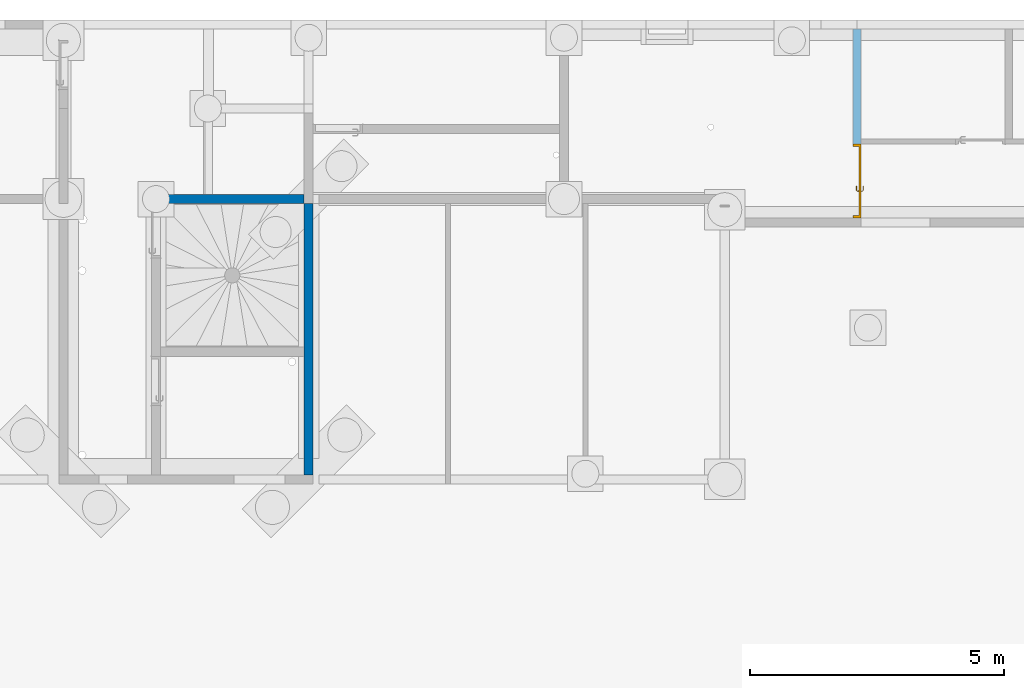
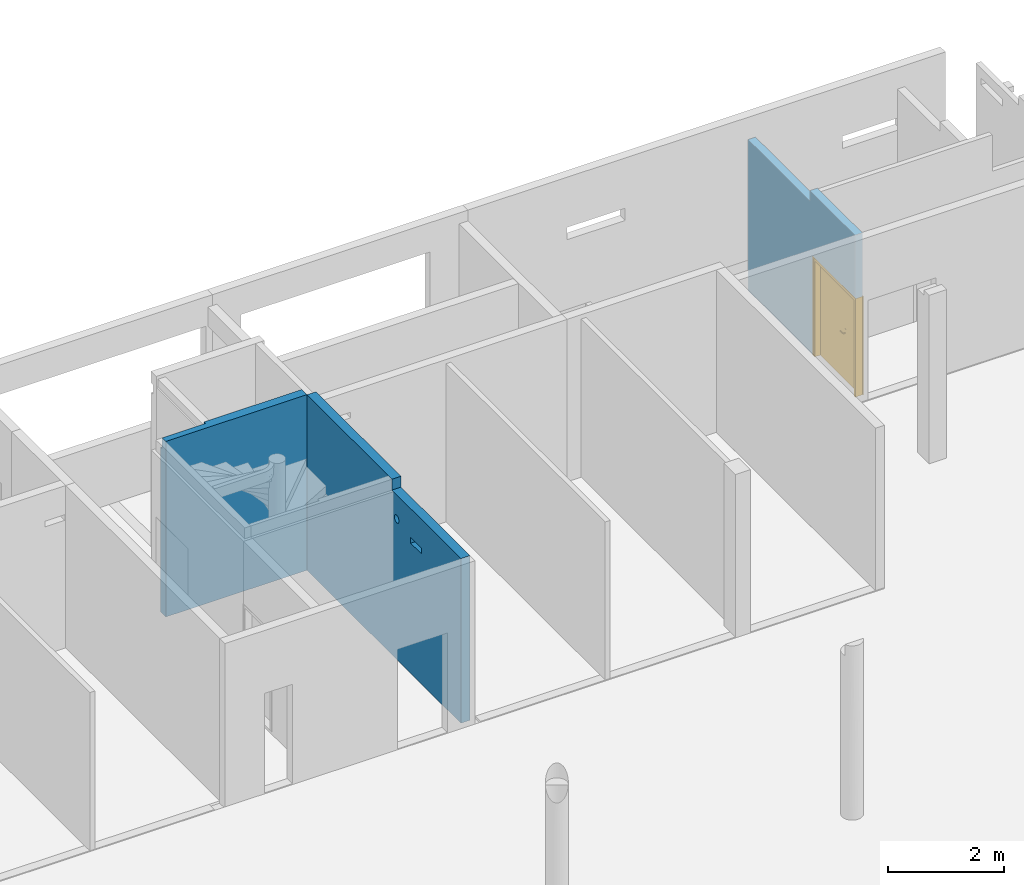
# One storey, part 26 of 29: 2 walls, 1 door, 2 openings, plus 1 element that does not belong to this part.
"""IFC2X3 building model written with IfcOpenShell, lengths in centimetres."""

from ifc_helpers import new_model, entity, si_unit, converted_unit, derived_unit, direction, frame, frame_2d, origin, place, context, subcontext, project, spatial, rectangle, extrude, faceted_brep, source, transform, mapped, material, material_list, layer, layer_set, layer_usage, type_object, type_shapes, element, fill, save


model = new_model("IFC2X3")

# Units and contexts
model_context = context("Model", 3, precision=0.001, world=origin(), true_north=direction((6.12303176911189e-17, 1.0)))
body_context = subcontext(model_context, "Body", "Model", "MODEL_VIEW")
ifc_project = project(units=[si_unit("LENGTHUNIT", "METRE", prefix="CENTI"), si_unit("AREAUNIT", "SQUARE_METRE"), si_unit("VOLUMEUNIT", "CUBIC_METRE"), converted_unit("PLANEANGLEUNIT", "DEGREE", entity("IfcRatioMeasure", 0.0174532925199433), si_unit("PLANEANGLEUNIT", "RADIAN"), dimensions=[0, 0, 0, 0, 0, 0, 0]), si_unit("MASSUNIT", "GRAM", prefix="KILO"), derived_unit("MASSDENSITYUNIT", [(si_unit("MASSUNIT", "GRAM", prefix="KILO"), 1), (si_unit("LENGTHUNIT", "METRE"), -3)]), si_unit("TIMEUNIT", "SECOND"), si_unit("FREQUENCYUNIT", "HERTZ"), si_unit("THERMODYNAMICTEMPERATUREUNIT", "DEGREE_CELSIUS"), derived_unit("THERMALTRANSMITTANCEUNIT", [(si_unit("MASSUNIT", "GRAM", prefix="KILO"), 1), (si_unit("THERMODYNAMICTEMPERATUREUNIT", "KELVIN"), -1), (si_unit("TIMEUNIT", "SECOND"), -3)]), derived_unit("VOLUMETRICFLOWRATEUNIT", [(si_unit("LENGTHUNIT", "METRE"), 3), (si_unit("TIMEUNIT", "SECOND"), -1)]), si_unit("ELECTRICCURRENTUNIT", "AMPERE"), si_unit("ELECTRICVOLTAGEUNIT", "VOLT"), si_unit("POWERUNIT", "WATT"), si_unit("FORCEUNIT", "NEWTON"), si_unit("ILLUMINANCEUNIT", "LUX"), si_unit("LUMINOUSFLUXUNIT", "LUMEN"), si_unit("LUMINOUSINTENSITYUNIT", "CANDELA"), derived_unit("USERDEFINED", [(si_unit("MASSUNIT", "GRAM", prefix="KILO"), -1), (si_unit("LENGTHUNIT", "METRE"), -2), (si_unit("TIMEUNIT", "SECOND"), 3), (si_unit("LUMINOUSFLUXUNIT", "LUMEN"), 1)]), derived_unit("LINEARVELOCITYUNIT", [(si_unit("LENGTHUNIT", "METRE"), 1), (si_unit("TIMEUNIT", "SECOND"), -1)]), si_unit("PRESSUREUNIT", "PASCAL"), derived_unit("USERDEFINED", [(si_unit("LENGTHUNIT", "METRE"), -2), (si_unit("MASSUNIT", "GRAM", prefix="KILO"), 1), (si_unit("TIMEUNIT", "SECOND"), -2)])], contexts=[model_context])

# Site, building, storey
site_placement = place(None, origin())
site = spatial("IfcSite", under=ifc_project, at=site_placement, Name="Default", CompositionType="ELEMENT")
building_placement = place(site_placement, origin())
building = spatial("IfcBuilding", under=site, at=building_placement, Name="CAGE 03", CompositionType="ELEMENT")
storey_placement = place(building_placement, frame((0.0, 0.0, -26.0)))
storey = spatial("IfcBuildingStorey", under=building, at=storey_placement, Name="+3.74", CompositionType="ELEMENT", Elevation=-26.0000000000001)

# Walls
ifc_material_1 = material(Name="Béton, C25/30")
ifc_layer_1 = layer(ifc_material_1, 18.0)
ifc_layer_set_1 = layer_set([ifc_layer_1], Name="Mur de base:Voile BA 18")
wall_type_1 = type_object("IfcWallType", Name="Mur de base:Voile BA 18", PredefinedType="STANDARD", material=ifc_layer_set_1)
wall_1_placement = place(storey_placement, frame((7031.36582014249, 4941.6606660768, -5.0)))
element("IfcWall", 1, at=wall_1_placement, inside=storey, type_object=wall_type_1, Name="Mur de base:Voile BA 18", ObjectType="Mur de base:Voile BA 18", context=body_context, shape_type="Brep", body=[
    faceted_brep([(0.0, -9.0, 0.0), (87.0, -9.0, 0.0), (282.0, -9.0, 0.0), (282.0, -9.0, 371.0), (0.0, -9.0, 371.0), (0.0, -9.0, 215.0), (0.0, -9.0, 5.0), (282.0, 9.0, 0.0), (87.0, 9.0, 0.0), (0.0, 9.0, 0.0), (0.0, 9.0, 348.0), (84.0, 9.0, 348.0), (87.0, 9.0, 348.0), (87.0, 9.0, 364.0), (87.0, 9.0, 371.0), (282.0, 9.0, 371.0), (29.0, 9.0, 120.5), (29.0, 9.0, 99.5), (37.0, 9.0, 99.5), (37.0, 9.0, 120.5), (87.0, 3.50000000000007, 371.0), (0.0, 3.50000000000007, 371.0), (0.0, 3.50000000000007, 348.0), (87.0, 3.50000000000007, 348.0), (37.0, 3.0, 120.5), (37.0, 3.0, 99.5), (29.0, 3.0, 99.5), (29.0, 3.0, 120.5)], [[[0, 1, 2, 3, 4, 5, 6]], [[7, 8, 9, 10, 11, 12, 13, 14, 15], [16, 17, 18, 19]], [[2, 1, 0, 9, 8, 7]], [[4, 3, 15, 14, 20, 21]], [[0, 6, 5, 4, 21, 22, 10, 9]], [[2, 7, 15, 3]], [[22, 23, 12, 11, 10]], [[23, 20, 14, 13, 12]], [[20, 23, 22, 21]], [[24, 25, 26, 27]], [[27, 26, 17, 16]], [[26, 25, 18, 17]], [[25, 24, 19, 18]], [[24, 27, 16, 19]]]),
])
wall_2_placement = place(storey_placement, frame((7322.36582014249, 4932.6606660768, -5.0), z_axis=(0.0, 0.0, 1.0), x_axis=(0.0, -1.0, 0.0)))
element("IfcWall", 2, at=wall_2_placement, inside=storey, type_object=wall_type_1, Name="Mur de base:Voile BA 18", ObjectType="Mur de base:Voile BA 18", context=body_context, shape_type="Brep", body=[
    faceted_brep([(303.08167155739, -9.0, 294.868807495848), (0.0, -9.0, 371.0), (303.880874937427, -9.0, 292.939359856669), (302.809078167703, -9.0, 296.939359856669), (282.0, -9.0, 371.0), (294.5, -9.0, 348.0), (303.08167155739, -9.0, 299.009912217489), (303.880874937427, -9.0, 300.939359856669), (305.15222391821, -9.0, 302.596214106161), (306.809078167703, -9.0, 303.867563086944), (300.0, -9.0, 348.0), (308.738525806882, -9.0, 304.666766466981), (310.809078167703, -9.0, 304.939359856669), (312.879630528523, -9.0, 304.666766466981), (314.809078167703, -9.0, 303.867563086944), (316.465932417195, -9.0, 302.596214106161), (358.921670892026, -9.0, 287.076580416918), (317.737281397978, -9.0, 300.939359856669), (318.536484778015, -9.0, 299.009912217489), (318.809078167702, -9.0, 296.939359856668), (318.536484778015, -9.0, 294.868807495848), (317.737281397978, -9.0, 292.939359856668), (358.921670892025, -9.0, 275.076580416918), (316.465932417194, -9.0, 291.282505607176), (314.809078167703, -9.0, 290.011156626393), (312.879630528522, -9.0, 289.211953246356), (310.809078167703, -9.0, 288.939359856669), (300.0, -9.0, 0.0), (282.0, -9.0, 0.0), (308.738525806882, -9.0, 289.211953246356), (306.809078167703, -9.0, 290.011156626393), (305.15222391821, -9.0, 291.282505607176), (0.0, -9.0, 0.0), (396.921670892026, -9.0, 275.076580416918), (501.0, -9.0, 0.0), (533.0, -9.0, 0.0), (533.0, -9.0, 348.0), (396.921670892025, -9.0, 287.076580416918), (294.5, -9.0, 371.0), (533.0, 9.0, 0.0), (501.0, 9.0, 0.0), (396.921670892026, 9.0, 275.076580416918), (533.0, 9.0, 348.0), (358.921670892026, 9.0, 275.076580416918), (308.738525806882, 9.0, 289.211953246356), (0.0, 9.0, 5.0), (0.0, 9.0, 0.0), (306.809078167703, 9.0, 290.011156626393), (305.15222391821, 9.0, 291.282505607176), (303.880874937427, 9.0, 292.939359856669), (0.0, 9.0, 341.0), (45.0, 9.0, 371.0), (0.0, 9.0, 348.0), (0.0, 9.0, 371.0), (303.08167155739, 9.0, 294.868807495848), (302.809078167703, 9.0, 296.939359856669), (282.0, 9.0, 371.0), (294.5, 9.0, 348.0), (294.5, 9.0, 371.0), (303.08167155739, 9.0, 299.009912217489), (303.880874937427, 9.0, 300.939359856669), (305.15222391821, 9.0, 302.596214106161), (306.809078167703, 9.0, 303.867563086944), (308.738525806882, 9.0, 304.666766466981), (310.809078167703, 9.0, 304.939359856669), (312.879630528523, 9.0, 304.666766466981), (314.809078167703, 9.0, 303.867563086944), (316.465932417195, 9.0, 302.596214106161), (358.921670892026, 9.0, 287.076580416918), (396.921670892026, 9.0, 287.076580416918), (511.0, 9.0, 348.0), (317.737281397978, 9.0, 292.939359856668), (318.536484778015, 9.0, 294.868807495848), (317.737281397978, 9.0, 300.939359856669), (318.536484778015, 9.0, 299.009912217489), (318.809078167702, 9.0, 296.939359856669), (310.809078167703, 9.0, 288.939359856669), (312.879630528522, 9.0, 289.211953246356), (314.809078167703, 9.0, 290.011156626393), (316.465932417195, 9.0, 291.282505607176), (0.0, 3.0, 371.0)], [[[0, 1, 2]], [[1, 0, 3]], [[4, 1, 3]], [[4, 3, 5]], [[6, 5, 3]], [[6, 7, 5]], [[7, 8, 5]], [[8, 9, 5]], [[10, 5, 9]], [[9, 11, 10]], [[10, 11, 12]], [[13, 10, 12]], [[14, 10, 13]], [[14, 15, 10]], [[10, 15, 16]], [[16, 15, 17]], [[18, 16, 17]], [[18, 19, 16]], [[20, 16, 19]], [[21, 16, 20]], [[21, 22, 16]], [[23, 22, 21]], [[23, 24, 22]], [[24, 25, 22]], [[26, 22, 25]], [[26, 27, 22]], [[28, 27, 26]], [[29, 28, 26]], [[29, 30, 28]], [[30, 31, 28]], [[28, 31, 32]], [[31, 2, 32]], [[32, 2, 1]], [[22, 27, 33]], [[34, 33, 27]], [[34, 35, 33]], [[33, 35, 36]], [[37, 36, 10]], [[36, 37, 33]], [[16, 37, 10]], [[38, 4, 5]], [[39, 40, 41]], [[39, 41, 42]], [[41, 40, 43]], [[43, 40, 44]], [[40, 45, 44]], [[40, 46, 45]], [[44, 45, 47]], [[48, 47, 45]], [[49, 48, 45]], [[45, 50, 49]], [[49, 50, 51]], [[51, 50, 52]], [[53, 51, 52]], [[49, 51, 54]], [[51, 55, 54]], [[55, 51, 56]], [[56, 57, 55]], [[57, 56, 58]], [[57, 59, 55]], [[57, 60, 59]], [[61, 60, 57]], [[57, 62, 61]], [[62, 57, 63]], [[57, 64, 63]], [[57, 65, 64]], [[57, 66, 65]], [[67, 66, 57]], [[67, 57, 68]], [[57, 69, 68]], [[57, 70, 69]], [[70, 41, 69]], [[70, 42, 41]], [[43, 71, 68]], [[72, 68, 71]], [[73, 67, 68]], [[74, 73, 68]], [[74, 68, 75]], [[68, 72, 75]], [[76, 43, 44]], [[76, 77, 43]], [[43, 77, 78]], [[78, 79, 43]], [[79, 71, 43]], [[40, 39, 35, 34, 27, 28, 32, 46]], [[51, 53, 80, 1, 4, 38, 58, 56]], [[35, 39, 42, 36]], [[1, 80, 53, 52, 50, 45, 46, 32]], [[10, 36, 42, 70, 57, 5]], [[38, 5, 57, 58]], [[21, 20, 72, 71]], [[21, 71, 79, 23]], [[25, 24, 78, 77]], [[79, 78, 24, 23]], [[26, 25, 77, 76]], [[19, 75, 72, 20]], [[30, 29, 44, 47]], [[30, 47, 48, 31]], [[0, 2, 49, 54]], [[48, 49, 2, 31]], [[3, 0, 54, 55]], [[76, 44, 29, 26]], [[59, 6, 3, 55]], [[11, 9, 62, 63]], [[8, 61, 62, 9]], [[12, 11, 63, 64]], [[7, 6, 59, 60]], [[60, 61, 8, 7]], [[14, 13, 65, 66]], [[14, 66, 67, 15]], [[18, 17, 73, 74]], [[67, 73, 17, 15]], [[19, 18, 74, 75]], [[64, 65, 13, 12]], [[16, 68, 69, 37]], [[33, 37, 69, 41]], [[22, 33, 41, 43]], [[16, 22, 43, 68]]]),
])

# Wall, openings, door
ifc_material_2 = material(Name="Bloc béton")
ifc_layer_2 = layer(ifc_material_2, 15.0)
ifc_layer_set_2 = layer_set([ifc_layer_2], Name="Mur de base:Int. Parpaing 150 mm")
ifc_layer_usage = layer_usage(ifc_layer_set_2, "AXIS2", "NEGATIVE", 7.5)
wall_type_2 = type_object("IfcWallType", Name="Mur de base:Int. Parpaing 150 mm", PredefinedType="STANDARD", material=ifc_layer_set_2)
wall_3_placement = place(storey_placement, frame((8400.36582014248, 5275.6606660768, 0.0), z_axis=(0.0, 0.0, 1.0), x_axis=(0.0, -1.0, 0.0)))
wall_3 = element("IfcWallStandardCase", 3, at=wall_3_placement, inside=storey, type_object=wall_type_2, material=ifc_layer_usage, Name="Mur de base:Int. Parpaing 150 mm", ObjectType="Mur de base:Int. Parpaing 150 mm", context=body_context, shape_type="SweptSolid", body=[
    extrude(rectangle(XDim=370.999999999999, YDim=15.0000000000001, at=frame_2d((185.499999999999, 0.0), x_axis=(-1.0, 0.0))), origin(), (0.0, 0.0, 1.0), 341.0),
])
opening_1_placement = place(wall_3_placement, origin())
element("IfcOpeningElement", 4, at=opening_1_placement, cuts=wall_3, Name="Mur de base:Int. Parpaing 150 mm", ObjectType="Opening", context=body_context, shape_type="SweptSolid", body=[
    extrude(rectangle(XDim=22.0, YDim=222.999999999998, at=frame_2d((0.0, 1.62536650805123e-13), x_axis=(0.0, 1.0))), frame((102.5, 7.50000000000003, 330.0), z_axis=(0.0, -1.0, 0.0), x_axis=(-1.0, 0.0, 0.0)), (0.0, 0.0, 1.0), 15.0),
])
opening_2_placement = place(wall_3_placement, frame((226.0, -7.5, 0.0)))
opening_2 = element("IfcOpeningElement", 5, at=opening_2_placement, cuts=wall_3, Name="Int. Tierce:PP (1.23m x 2.04m):1", ObjectType="Opening", context=body_context, shape_type="SweptSolid", body=[
    extrude(rectangle(XDim=207.500000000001, YDim=145.0, at=frame_2d((103.750000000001, 72.4999999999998), x_axis=(1.0, 0.0))), frame((0.0, 0.0, 0.0), z_axis=(0.0, 1.0, 0.0), x_axis=(0.0, 0.0, 1.0)), (0.0, 0.0, 1.0), 15.0),
])
ifc_material_3 = material(Name="Finition Peinture - Blanc satiné")
ifc_material_4 = material(Name="Bois - Panneau de porte")
ifc_material_5 = material(Name="Bois - Cadre de porte")
ifc_material_list_1 = material_list([ifc_material_3, ifc_material_4, ifc_material_5])
ifc_material_list_2 = material_list([ifc_material_3, ifc_material_4, ifc_material_5])
door_style = type_object("IfcDoorStyle", Name="PP (1.23m x 2.04m)", ConstructionType="NOTDEFINED", OperationType="DOUBLE_DOOR_SINGLE_SWING", ParameterTakesPrecedence=False, Sizeable=False, material=ifc_material_list_2)
shared_shape = source(origin(), body_context, "Body", "Brep", [
    faceted_brep([(60.535276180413, -0.500000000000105, 86.6003983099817), (61.5000000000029, -0.500000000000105, 87.0), (61.5000000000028, -0.500000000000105, 108.0), (60.5352761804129, -0.500000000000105, 108.399601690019), (59.5000000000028, -0.500000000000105, 108.535898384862), (58.4647238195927, -0.500000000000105, 108.399601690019), (57.5000000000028, -0.500000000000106, 108.0), (57.500000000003, -0.500000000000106, 87.0), (58.4647238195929, -0.500000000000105, 86.6003983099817), (59.5000000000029, -0.500000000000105, 86.464101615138), (60.5352761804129, 0.0, 108.399601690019), (61.5000000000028, 0.0, 108.0), (61.5000000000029, 0.0, 87.0), (60.535276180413, 0.0, 86.6003983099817), (59.5000000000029, 0.0, 86.464101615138), (58.4647238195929, 0.0, 86.6003983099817), (57.5000000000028, 0.0, 87.0), (57.5000000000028, 0.0, 108.0), (58.4647238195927, 0.0, 108.399601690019), (59.5000000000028, 0.0, 108.535898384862)], [[[0, 1, 2, 3, 4, 5, 6, 7, 8, 9]], [[10, 11, 12, 13, 14, 15, 16, 17, 18, 19]], [[16, 15, 8, 7]], [[8, 15, 14, 9]], [[14, 13, 0, 9]], [[13, 12, 1, 0]], [[2, 1, 12, 11]], [[11, 10, 3, 2]], [[3, 10, 19, 4]], [[19, 18, 5, 4]], [[18, 17, 6, 5]], [[7, 6, 17, 16]]]),
    faceted_brep([(60.535276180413, 4.0, 86.6003983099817), (61.5000000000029, 4.0, 87.0), (61.5000000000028, 4.0, 108.0), (60.5352761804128, 4.0, 108.399601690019), (59.5000000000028, 4.0, 108.535898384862), (58.4647238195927, 4.0, 108.399601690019), (57.5000000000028, 4.0, 108.0), (57.500000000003, 4.0, 87.0), (58.4647238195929, 4.0, 86.6003983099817), (59.5000000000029, 4.0, 86.464101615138), (60.5352761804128, 4.49999999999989, 108.399601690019), (61.5000000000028, 4.4999999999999, 108.0), (61.5000000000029, 4.4999999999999, 87.0), (60.535276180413, 4.49999999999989, 86.6003983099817), (59.5000000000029, 4.49999999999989, 86.464101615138), (58.4647238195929, 4.49999999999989, 86.6003983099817), (57.5000000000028, 4.49999999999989, 87.0), (57.5000000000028, 4.49999999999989, 108.0), (58.4647238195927, 4.49999999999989, 108.399601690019), (59.5000000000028, 4.49999999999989, 108.535898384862)], [[[0, 1, 2, 3, 4, 5, 6, 7, 8, 9]], [[10, 11, 12, 13, 14, 15, 16, 17, 18, 19]], [[11, 10, 3, 2]], [[3, 10, 19, 4]], [[19, 18, 5, 4]], [[18, 17, 6, 5]], [[7, 6, 17, 16]], [[16, 15, 8, 7]], [[8, 15, 14, 9]], [[14, 13, 0, 9]], [[13, 12, 1, 0]], [[2, 1, 12, 11]]]),
    faceted_brep([(59.2974701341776, -0.500000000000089, 100.778044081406), (59.7025298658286, -0.500000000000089, 100.778044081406), (60.1000000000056, -0.500000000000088, 100.699999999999), (60.1000000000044, -0.500000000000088, 99.3000000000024), (59.7025298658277, -0.500000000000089, 99.2219559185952), (59.2974701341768, -0.500000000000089, 99.221955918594), (58.9000000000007, -0.500000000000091, 99.2999999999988), (58.9000000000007, -0.500000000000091, 100.7), (58.9000000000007, -3.26509507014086, 100.7), (59.2974701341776, -3.10045754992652, 100.778044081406), (60.902358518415, -4.70534593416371, 100.778044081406), (61.070139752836, -4.30028620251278, 100.778044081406), (59.7025298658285, -2.93267631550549, 100.778044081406), (60.1000000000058, -2.76803879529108, 100.7), (60.1000000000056, -2.76803879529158, 99.3000000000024), (59.7025298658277, -2.93267631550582, 99.2219559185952), (61.0701397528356, -4.30028620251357, 99.2219559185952), (60.9023585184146, -4.70534593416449, 99.221955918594), (59.2974701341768, -3.10045754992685, 99.221955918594), (58.9000000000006, -3.26509507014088, 99.2999999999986), (60.7377209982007, -5.10281606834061, 100.7), (61.2347772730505, -3.90281606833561, 100.7), (61.2347772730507, -3.90281606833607, 99.3000000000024), (60.7377209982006, -5.10281606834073, 99.2999999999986), (69.5018640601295, -5.1028160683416, 99.2999999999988), (69.5018640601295, -4.70534593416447, 99.221955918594), (69.5018640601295, -4.30028620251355, 99.2219559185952), (69.5018640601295, -3.90281606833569, 99.3000000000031), (69.5018640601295, -3.90281606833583, 100.7), (69.5018640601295, -4.30028620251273, 100.778044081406), (69.5018640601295, -4.70534593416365, 100.778044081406), (69.5018640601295, -5.10281606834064, 100.699999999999), (64.7307697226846, -5.10281606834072, 100.7), (65.2860019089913, -4.5028160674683, 100.78786867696), (65.3683206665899, -3.9028160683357, 100.7), (65.3683206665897, -3.90281606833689, 99.3000000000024), (65.286001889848, -4.50281607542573, 99.2121313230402), (64.7307700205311, -5.10281606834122, 99.2999999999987)], [[[0, 1, 2, 3, 4, 5, 6, 7]], [[8, 9, 0, 7]], [[9, 10, 11, 12, 1, 0]], [[12, 13, 2, 1]], [[3, 2, 13, 14]], [[14, 15, 4, 3]], [[15, 16, 17, 18, 5, 4]], [[18, 19, 6, 5]], [[7, 6, 19, 8]], [[20, 10, 9, 8]], [[11, 21, 13, 12]], [[14, 13, 21, 22]], [[22, 16, 15, 14]], [[17, 23, 19, 18]], [[8, 19, 23, 20]], [[24, 25, 26, 27, 28, 29, 30, 31]], [[32, 30, 33]], [[31, 30, 32]], [[10, 20, 32]], [[33, 34, 11]], [[21, 11, 34]], [[34, 29, 28]], [[30, 29, 33]], [[29, 34, 33]], [[10, 32, 33]], [[10, 33, 11]], [[22, 21, 34, 28, 27, 35]], [[35, 26, 36]], [[37, 36, 25]], [[22, 35, 16]], [[35, 27, 26]], [[24, 37, 25]], [[23, 17, 37]], [[37, 17, 36]], [[17, 16, 36]], [[16, 35, 36]], [[25, 36, 26]], [[20, 23, 37, 24, 31, 32]]]),
    faceted_brep([(59.297470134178, 4.49999999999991, 100.778044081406), (58.900000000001, 4.49999999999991, 100.7), (58.9, 4.49999999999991, 99.2999999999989), (59.2974701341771, 4.49999999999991, 99.221955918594), (59.702529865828, 4.49999999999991, 99.2219559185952), (60.1000000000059, 4.49999999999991, 99.3000000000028), (60.1000000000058, 4.49999999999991, 100.7), (59.7025298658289, 4.49999999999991, 100.778044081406), (60.1000000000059, 6.7485204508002, 99.3000000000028), (60.1000000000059, 6.74852045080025, 100.7), (59.7025298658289, 6.91315797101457, 100.778044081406), (61.0838906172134, 8.29451872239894, 100.778044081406), (60.9161093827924, 8.69957845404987, 100.778044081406), (59.297470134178, 7.0809392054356, 100.778044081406), (58.900000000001, 7.24557672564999, 100.7), (58.9000000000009, 7.24557672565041, 99.2999999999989), (59.2974701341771, 7.08093920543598, 99.221955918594), (60.916109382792, 8.69957845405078, 99.221955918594), (61.083890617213, 8.29451872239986, 99.2219559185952), (59.702529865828, 6.91315797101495, 99.2219559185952), (61.2485281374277, 7.89704858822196, 99.3000000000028), (61.2485281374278, 7.89704858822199, 100.7), (60.751471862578, 9.0970485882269, 100.7), (60.7514718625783, 9.0970485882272, 99.2999999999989), (69.5045783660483, 7.89704858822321, 99.3000000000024), (69.5045783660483, 8.29451872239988, 99.2219559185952), (69.5045783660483, 8.6995784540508, 99.221955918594), (69.5045783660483, 9.09704858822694, 99.2999999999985), (69.5045783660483, 9.09704858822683, 100.7), (69.5045783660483, 8.69957845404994, 100.778044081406), (69.5045783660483, 8.29451872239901, 100.778044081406), (69.5045783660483, 7.89704858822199, 100.7), (65.3765520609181, 7.89704858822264, 99.3000000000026), (65.376553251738, 7.89704858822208, 100.7), (65.2942344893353, 8.49704858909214, 100.78786867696), (64.7445205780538, 9.09704858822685, 100.7), (64.7445204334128, 9.09704858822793, 99.2999999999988), (65.2942345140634, 8.49704858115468, 99.2121313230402)], [[[0, 1, 2, 3, 4, 5, 6, 7]], [[6, 5, 8, 9]], [[9, 10, 7, 6]], [[10, 11, 12, 13, 0, 7]], [[13, 14, 1, 0]], [[2, 1, 14, 15]], [[15, 16, 3, 2]], [[16, 17, 18, 19, 4, 3]], [[19, 8, 5, 4]], [[9, 8, 20, 21]], [[21, 11, 10, 9]], [[12, 22, 14, 13]], [[15, 14, 22, 23]], [[23, 17, 16, 15]], [[18, 20, 8, 19]], [[24, 25, 26, 27, 28, 29, 30, 31]], [[21, 20, 32, 24, 31, 33]], [[33, 30, 34]], [[35, 34, 29]], [[21, 33, 11]], [[33, 31, 30]], [[28, 35, 29]], [[22, 12, 35]], [[35, 12, 34]], [[12, 11, 34]], [[11, 33, 34]], [[29, 34, 30]], [[22, 35, 28, 27, 36, 23]], [[36, 26, 37]], [[27, 26, 36]], [[17, 23, 36]], [[37, 32, 18]], [[20, 18, 32]], [[32, 25, 24]], [[26, 25, 37]], [[25, 32, 37]], [[17, 36, 37]], [[17, 37, 18]]]),
    faceted_brep([(53.5000000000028, 4.0, 204.0), (148.500000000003, 4.0, 204.0), (148.500000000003, 4.0, 0.0), (53.5000000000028, 4.0, 0.0), (53.5000000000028, 0.0, 204.0), (53.5000000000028, 0.0, 0.0), (148.500000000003, 0.0, 0.0), (148.500000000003, 0.0, 204.0)], [[[0, 1, 2, 3]], [[4, 5, 6, 7]], [[1, 0, 4, 7]], [[2, 1, 7, 6]], [[3, 2, 6, 5]], [[0, 3, 5, 4]]]),
    faceted_brep([(152.0, 0.0, 0.0), (148.500000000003, 0.0, 0.0), (148.500000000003, 4.0, 0.0), (147.0, 4.0, 0.0), (147.0, 15.0, 0.0), (152.0, 15.0, 0.0), (152.0, 15.0, 207.500000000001), (152.0, 0.0, 207.500000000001), (147.0, 15.0, 202.499999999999), (12.0, 15.0, 202.499999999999), (12.0, 15.0, 0.0), (7.0, 15.0, 0.0), (7.0, 15.0, 207.500000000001), (147.0, 4.0, 202.499999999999), (148.500000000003, 4.0, 204.0), (10.5000000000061, 4.0, 204.0), (10.5000000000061, 4.0, 0.0), (12.0, 4.0, 0.0), (12.0, 4.0, 202.499999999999), (148.500000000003, 0.0, 204.0), (7.0, 0.0, 207.500000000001), (7.0, 0.0, 0.0), (10.5000000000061, 0.0, 0.0), (10.5000000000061, 0.0, 204.0)], [[[0, 1, 2, 3, 4, 5]], [[5, 6, 7, 0]], [[4, 8, 9, 10, 11, 12, 6, 5]], [[3, 13, 8, 4]], [[2, 14, 15, 16, 17, 18, 13, 3]], [[1, 19, 14, 2]], [[0, 7, 20, 21, 22, 23, 19, 1]], [[12, 11, 21, 20]], [[21, 11, 10, 17, 16, 22]], [[18, 17, 10, 9]], [[23, 22, 16, 15]], [[6, 12, 20, 7]], [[13, 18, 9, 8]], [[19, 23, 15, 14]]]),
    faceted_brep([(10.500000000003, 0.0, 204.0), (53.5000000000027, 0.0, 204.0), (53.5000000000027, 4.0, 204.0), (10.500000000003, 4.0, 204.0), (10.500000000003, 0.0, 0.0), (10.500000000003, 4.0, 0.0), (53.5000000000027, 4.0, 0.0), (53.5000000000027, 0.0, 0.0)], [[[0, 1, 2, 3]], [[4, 5, 6, 7]], [[3, 5, 4, 0]], [[2, 6, 5, 3]], [[1, 7, 6, 2]], [[0, 4, 7, 1]]]),
    faceted_brep([(150.500000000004, 15.0, 0.0), (150.500000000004, 15.5000000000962, 0.0), (153.500000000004, 15.5000000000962, 0.0), (153.500000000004, 15.0, 0.0), (153.500000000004, 15.0, 209.0), (5.50000000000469, 15.0, 209.0), (5.50000000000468, 15.0, 0.0), (8.50000000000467, 15.0, 0.0), (8.50000000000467, 15.0, 206.0), (150.500000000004, 15.0, 206.0), (153.500000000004, 15.5000000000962, 209.0), (150.500000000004, 15.5000000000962, 206.0), (8.50000000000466, 15.5000000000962, 206.0), (8.50000000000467, 15.5000000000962, 0.0), (5.50000000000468, 15.5000000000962, 0.0), (5.50000000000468, 15.5000000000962, 209.0)], [[[0, 1, 2, 3]], [[3, 4, 5, 6, 7, 8, 9, 0]], [[2, 10, 4, 3]], [[1, 11, 12, 13, 14, 15, 10, 2]], [[0, 9, 11, 1]], [[7, 6, 14, 13]], [[8, 7, 13, 12]], [[15, 14, 6, 5]], [[10, 15, 5, 4]], [[9, 8, 12, 11]]]),
    faceted_brep([(153.500000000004, -0.499999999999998, 0.0), (153.500000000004, -0.499999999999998, 209.0), (5.50000000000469, -0.499999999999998, 209.0), (5.50000000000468, -0.499999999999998, 0.0), (8.50000000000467, -0.499999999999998, 0.0), (8.50000000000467, -0.499999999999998, 206.0), (150.500000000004, -0.499999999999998, 206.0), (150.500000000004, -0.499999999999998, 0.0), (153.500000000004, 0.0, 0.0), (153.500000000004, 0.0, 209.0), (150.500000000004, 0.0, 0.0), (150.500000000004, 0.0, 206.0), (8.50000000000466, 0.0, 206.0), (8.50000000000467, 0.0, 0.0), (5.50000000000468, 0.0, 0.0), (5.50000000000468, 0.0, 209.0)], [[[0, 1, 2, 3, 4, 5, 6, 7]], [[8, 9, 1, 0]], [[10, 11, 12, 13, 14, 15, 9, 8]], [[7, 6, 11, 10]], [[5, 4, 13, 12]], [[15, 14, 3, 2]], [[9, 15, 2, 1]], [[6, 5, 12, 11]], [[4, 3, 14, 13]], [[7, 10, 8, 0]]]),
])
type_shapes(door_style, [shared_shape])
door_placement = place(opening_2_placement, frame((152.0, 15.0, 0.0), z_axis=(0.0, 0.0, 1.0), x_axis=(-1.0, 0.0, 0.0)))
door = element("IfcDoor", 6, at=door_placement, inside=storey, type_object=door_style, material=ifc_material_list_1, Name="Int. Tierce:PP (1.23m x 2.04m)", ObjectType="PP (1.23m x 2.04m)", OverallHeight=207.500000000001, OverallWidth=145.0, context=body_context, shape_type="MappedRepresentation", body=[
    mapped(shared_shape, transform((0.0, 0.0, 0.0), scale=1.0)),
])
fill(opening_2, door)

save(model, "model.ifc")
